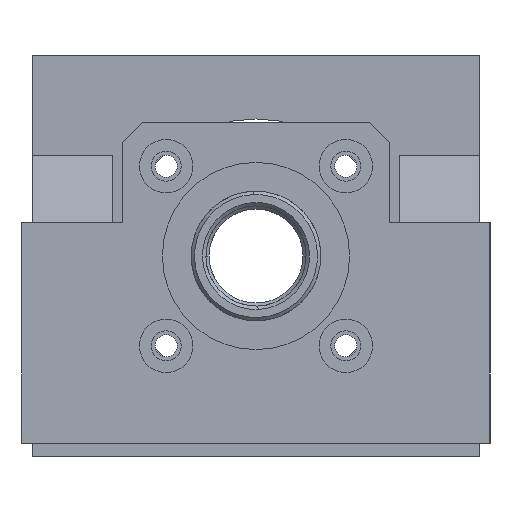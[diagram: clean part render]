
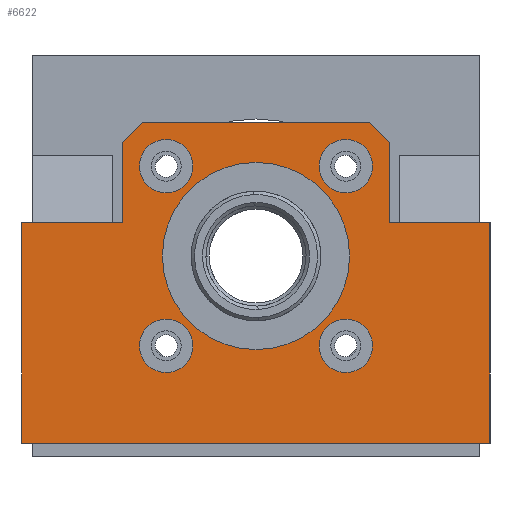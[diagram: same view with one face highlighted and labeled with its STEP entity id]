
A CAD part, left-side view. The second image highlights one B-rep face of the part: STEP entity #6622.
In plain terms, the highlighted planar face has unit normal (-1, 0, 0).
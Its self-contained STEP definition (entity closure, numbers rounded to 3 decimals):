
#3865=DIRECTION('',(0.,-1.,0.));
#3866=VECTOR('',#3865,15.);
#3867=CARTESIAN_POINT('',(0.,-20.,33.));
#3868=LINE('',#3867,#3866);
#4219=DIRECTION('',(0.,-1.,0.));
#4220=VECTOR('',#4219,15.);
#4221=CARTESIAN_POINT('',(0.,35.,33.));
#4222=LINE('',#4221,#4220);
#4251=DIRECTION('',(0.,0.,1.));
#4252=VECTOR('',#4251,12.);
#4253=CARTESIAN_POINT('',(0.,20.,33.));
#4254=LINE('',#4253,#4252);
#4263=CARTESIAN_POINT('',(0.,13.435,41.435));
#4264=DIRECTION('',(1.,0.,0.));
#4265=DIRECTION('',(0.,1.,0.));
#4266=AXIS2_PLACEMENT_3D('',#4263,#4264,#4265);
#4268=CARTESIAN_POINT('',(0.,13.435,41.435));
#4269=DIRECTION('',(1.,0.,0.));
#4270=DIRECTION('',(0.,-1.,0.));
#4271=AXIS2_PLACEMENT_3D('',#4268,#4269,#4270);
#4273=CARTESIAN_POINT('',(0.,13.435,14.565));
#4274=DIRECTION('',(1.,0.,0.));
#4275=DIRECTION('',(0.,1.,0.));
#4276=AXIS2_PLACEMENT_3D('',#4273,#4274,#4275);
#4278=CARTESIAN_POINT('',(0.,13.435,14.565));
#4279=DIRECTION('',(1.,0.,0.));
#4280=DIRECTION('',(0.,-1.,0.));
#4281=AXIS2_PLACEMENT_3D('',#4278,#4279,#4280);
#4283=CARTESIAN_POINT('',(0.,-13.435,41.435));
#4284=DIRECTION('',(1.,0.,0.));
#4285=DIRECTION('',(0.,1.,0.));
#4286=AXIS2_PLACEMENT_3D('',#4283,#4284,#4285);
#4288=CARTESIAN_POINT('',(0.,-13.435,41.435));
#4289=DIRECTION('',(1.,0.,0.));
#4290=DIRECTION('',(0.,-1.,0.));
#4291=AXIS2_PLACEMENT_3D('',#4288,#4289,#4290);
#4293=CARTESIAN_POINT('',(0.,-13.435,14.565));
#4294=DIRECTION('',(1.,0.,0.));
#4295=DIRECTION('',(0.,1.,0.));
#4296=AXIS2_PLACEMENT_3D('',#4293,#4294,#4295);
#4298=CARTESIAN_POINT('',(0.,-13.435,14.565));
#4299=DIRECTION('',(1.,0.,0.));
#4300=DIRECTION('',(0.,-1.,0.));
#4301=AXIS2_PLACEMENT_3D('',#4298,#4299,#4300);
#4303=CARTESIAN_POINT('',(0.,0.,28.));
#4304=DIRECTION('',(1.,0.,0.));
#4305=DIRECTION('',(0.,0.,-1.));
#4306=AXIS2_PLACEMENT_3D('',#4303,#4304,#4305);
#4308=DIRECTION('',(0.,0.,1.));
#4309=VECTOR('',#4308,12.);
#4310=CARTESIAN_POINT('',(0.,-20.,33.));
#4311=LINE('',#4310,#4309);
#4312=DIRECTION('',(0.,0.,1.));
#4313=VECTOR('',#4312,33.);
#4314=CARTESIAN_POINT('',(0.,-35.,0.));
#4315=LINE('',#4314,#4313);
#4316=DIRECTION('',(0.,-1.,0.));
#4317=VECTOR('',#4316,70.);
#4318=CARTESIAN_POINT('',(0.,35.,0.));
#4319=LINE('',#4318,#4317);
#4320=DIRECTION('',(0.,0.707,-0.707));
#4321=VECTOR('',#4320,4.243);
#4322=CARTESIAN_POINT('',(0.,17.,48.));
#4323=LINE('',#4322,#4321);
#4324=DIRECTION('',(0.,0.707,0.707));
#4325=VECTOR('',#4324,4.243);
#4326=CARTESIAN_POINT('',(0.,-20.,45.));
#4327=LINE('',#4326,#4325);
#4481=CARTESIAN_POINT('',(0.,0.,28.));
#4482=DIRECTION('',(1.,0.,0.));
#4483=DIRECTION('',(0.,0.,1.));
#4484=AXIS2_PLACEMENT_3D('',#4481,#4482,#4483);
#4590=DIRECTION('',(0.,-1.,0.));
#4591=VECTOR('',#4590,34.);
#4592=CARTESIAN_POINT('',(0.,17.,48.));
#4593=LINE('',#4592,#4591);
#5025=DIRECTION('',(0.,0.,1.));
#5026=VECTOR('',#5025,33.);
#5027=CARTESIAN_POINT('',(0.,35.,0.));
#5028=LINE('',#5027,#5026);
#5249=CARTESIAN_POINT('',(0.,35.,33.));
#5250=VERTEX_POINT('',#5249);
#5251=CARTESIAN_POINT('',(0.,20.,33.));
#5252=VERTEX_POINT('',#5251);
#5311=CARTESIAN_POINT('',(0.,-35.,0.));
#5312=VERTEX_POINT('',#5311);
#5313=CARTESIAN_POINT('',(0.,35.,0.));
#5314=VERTEX_POINT('',#5313);
#5321=CARTESIAN_POINT('',(0.,-20.,33.));
#5322=VERTEX_POINT('',#5321);
#5323=CARTESIAN_POINT('',(0.,-35.,33.));
#5324=VERTEX_POINT('',#5323);
#5325=CARTESIAN_POINT('',(0.,-20.,45.));
#5326=VERTEX_POINT('',#5325);
#5327=CARTESIAN_POINT('',(0.,-17.,48.));
#5328=VERTEX_POINT('',#5327);
#5329=CARTESIAN_POINT('',(0.,17.,48.));
#5330=VERTEX_POINT('',#5329);
#5331=CARTESIAN_POINT('',(0.,20.,45.));
#5332=VERTEX_POINT('',#5331);
#5377=CARTESIAN_POINT('',(0.,0.,14.));
#5378=CARTESIAN_POINT('',(0.,0.,42.));
#5379=VERTEX_POINT('',#5377);
#5380=VERTEX_POINT('',#5378);
#5477=CARTESIAN_POINT('',(0.,-9.435,14.565));
#5479=VERTEX_POINT('',#5477);
#5481=CARTESIAN_POINT('',(0.,-17.435,14.565));
#5483=VERTEX_POINT('',#5481);
#5493=CARTESIAN_POINT('',(0.,-9.435,41.435));
#5495=VERTEX_POINT('',#5493);
#5497=CARTESIAN_POINT('',(0.,-17.435,41.435));
#5499=VERTEX_POINT('',#5497);
#5509=CARTESIAN_POINT('',(0.,17.435,14.565));
#5511=VERTEX_POINT('',#5509);
#5513=CARTESIAN_POINT('',(0.,9.435,14.565));
#5515=VERTEX_POINT('',#5513);
#5525=CARTESIAN_POINT('',(0.,17.435,41.435));
#5527=VERTEX_POINT('',#5525);
#5529=CARTESIAN_POINT('',(0.,9.435,41.435));
#5531=VERTEX_POINT('',#5529);
#6569=CARTESIAN_POINT('',(0.,-35.,33.));
#6570=DIRECTION('',(-1.,0.,0.));
#6571=DIRECTION('',(0.,-1.,0.));
#6572=AXIS2_PLACEMENT_3D('',#6569,#6570,#6571);
#6573=PLANE('',#6572);
#6575=ORIENTED_EDGE('',*,*,#6574,.F.);
#6576=ORIENTED_EDGE('',*,*,#5978,.T.);
#6578=ORIENTED_EDGE('',*,*,#6577,.F.);
#6579=ORIENTED_EDGE('',*,*,#5699,.F.);
#6581=ORIENTED_EDGE('',*,*,#6580,.T.);
#6582=ORIENTED_EDGE('',*,*,#6529,.T.);
#6583=ORIENTED_EDGE('',*,*,#6556,.T.);
#6585=ORIENTED_EDGE('',*,*,#6584,.F.);
#6587=ORIENTED_EDGE('',*,*,#6586,.T.);
#6589=ORIENTED_EDGE('',*,*,#6588,.F.);
#6590=EDGE_LOOP('',(#6575,#6576,#6578,#6579,#6581,#6582,#6583,#6585,#6587,
#6589));
#6591=FACE_OUTER_BOUND('',#6590,.F.);
#6593=ORIENTED_EDGE('',*,*,#6592,.F.);
#6595=ORIENTED_EDGE('',*,*,#6594,.F.);
#6596=EDGE_LOOP('',(#6593,#6595));
#6597=FACE_BOUND('',#6596,.F.);
#6599=ORIENTED_EDGE('',*,*,#6598,.F.);
#6601=ORIENTED_EDGE('',*,*,#6600,.F.);
#6602=EDGE_LOOP('',(#6599,#6601));
#6603=FACE_BOUND('',#6602,.F.);
#6605=ORIENTED_EDGE('',*,*,#6604,.F.);
#6607=ORIENTED_EDGE('',*,*,#6606,.F.);
#6608=EDGE_LOOP('',(#6605,#6607));
#6609=FACE_BOUND('',#6608,.F.);
#6611=ORIENTED_EDGE('',*,*,#6610,.F.);
#6613=ORIENTED_EDGE('',*,*,#6612,.F.);
#6614=EDGE_LOOP('',(#6611,#6613));
#6615=FACE_BOUND('',#6614,.F.);
#6617=ORIENTED_EDGE('',*,*,#6616,.F.);
#6619=ORIENTED_EDGE('',*,*,#6618,.F.);
#6620=EDGE_LOOP('',(#6617,#6619));
#6621=FACE_BOUND('',#6620,.F.);
#4267=CIRCLE('',#4266,4.);
#4272=CIRCLE('',#4271,4.);
#4277=CIRCLE('',#4276,4.);
#4282=CIRCLE('',#4281,4.);
#4287=CIRCLE('',#4286,4.);
#4292=CIRCLE('',#4291,4.);
#4297=CIRCLE('',#4296,4.);
#4302=CIRCLE('',#4301,4.);
#4307=CIRCLE('',#4306,14.);
#4485=CIRCLE('',#4484,14.);
#5699=EDGE_CURVE('',#5314,#5312,#4319,.T.);
#5978=EDGE_CURVE('',#5322,#5324,#3868,.T.);
#6529=EDGE_CURVE('',#5250,#5252,#4222,.T.);
#6556=EDGE_CURVE('',#5252,#5332,#4254,.T.);
#6574=EDGE_CURVE('',#5322,#5326,#4311,.T.);
#6577=EDGE_CURVE('',#5312,#5324,#4315,.T.);
#6580=EDGE_CURVE('',#5314,#5250,#5028,.T.);
#6584=EDGE_CURVE('',#5330,#5332,#4323,.T.);
#6586=EDGE_CURVE('',#5330,#5328,#4593,.T.);
#6588=EDGE_CURVE('',#5326,#5328,#4327,.T.);
#6592=EDGE_CURVE('',#5511,#5515,#4277,.T.);
#6594=EDGE_CURVE('',#5515,#5511,#4282,.T.);
#6598=EDGE_CURVE('',#5495,#5499,#4287,.T.);
#6600=EDGE_CURVE('',#5499,#5495,#4292,.T.);
#6604=EDGE_CURVE('',#5479,#5483,#4297,.T.);
#6606=EDGE_CURVE('',#5483,#5479,#4302,.T.);
#6610=EDGE_CURVE('',#5380,#5379,#4485,.T.);
#6612=EDGE_CURVE('',#5379,#5380,#4307,.T.);
#6616=EDGE_CURVE('',#5527,#5531,#4267,.T.);
#6618=EDGE_CURVE('',#5531,#5527,#4272,.T.);
#6622=ADVANCED_FACE('',(#6591,#6597,#6603,#6609,#6615,#6621),#6573,.T.);
